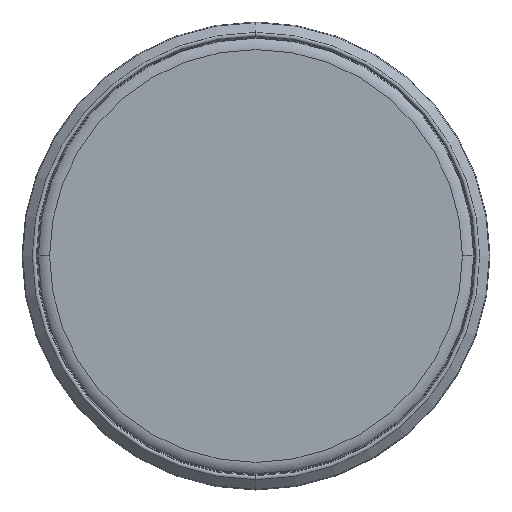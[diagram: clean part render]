
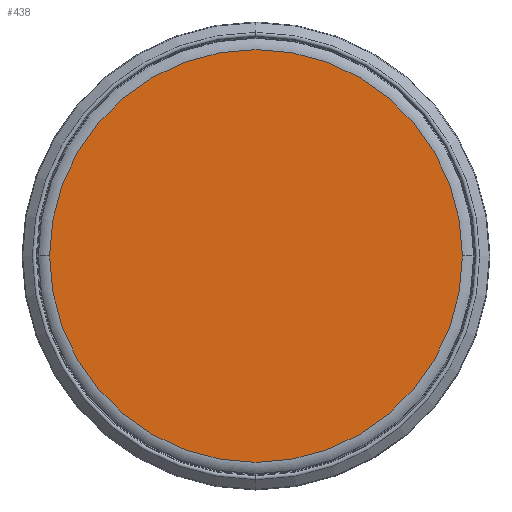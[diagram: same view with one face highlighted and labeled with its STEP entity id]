
A CAD part, top view. The second image highlights one B-rep face of the part: STEP entity #438.
In plain terms, the highlighted planar face has unit normal (0, 0, 1) as drawn and (0, 0, -1) by its records, which use the part's own axes.
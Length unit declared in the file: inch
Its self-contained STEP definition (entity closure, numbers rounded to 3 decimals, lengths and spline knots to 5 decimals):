
#169 = AXIS2_PLACEMENT_3D ( 'NONE', #539, #531, #530 ) ;
#201 = AXIS2_PLACEMENT_3D ( 'NONE', #1188, #1187, #1186 ) ;
#206 = AXIS2_PLACEMENT_3D ( 'NONE', #1357, #1348, #1347 ) ;
#438 = ADVANCED_FACE ( 'NONE', ( #1598 ), #534, .F. ) ;
#466 = CARTESIAN_POINT ( 'NONE',  ( 1.60721, 0., 0. ) ) ;
#530 = DIRECTION ( 'NONE',  ( 1., 0., 0. ) ) ;
#531 = DIRECTION ( 'NONE',  ( 0., 0., 1. ) ) ;
#534 = PLANE ( 'NONE',  #169 ) ;
#539 = CARTESIAN_POINT ( 'NONE',  ( 0., 0., 0. ) ) ;
#876 = VERTEX_POINT ( 'NONE', #466 ) ;
#881 = VERTEX_POINT ( 'NONE', #950 ) ;
#950 = CARTESIAN_POINT ( 'NONE',  ( -1.60721, 0., 0. ) ) ;
#1186 = DIRECTION ( 'NONE',  ( 1., 0., 0. ) ) ;
#1187 = DIRECTION ( 'NONE',  ( 0., 0., 1. ) ) ;
#1188 = CARTESIAN_POINT ( 'NONE',  ( 0., 0., 0. ) ) ;
#1347 = DIRECTION ( 'NONE',  ( 1., 0., 0. ) ) ;
#1348 = DIRECTION ( 'NONE',  ( 0., 0., 1. ) ) ;
#1357 = CARTESIAN_POINT ( 'NONE',  ( 0., 0., 0. ) ) ;
#1375 = ORIENTED_EDGE ( 'NONE', *, *, #2257, .F. ) ;
#1390 = ORIENTED_EDGE ( 'NONE', *, *, #2264, .F. ) ;
#1598 = FACE_OUTER_BOUND ( 'NONE', #2238, .T. ) ;
#1657 = CIRCLE ( 'NONE', #201, 1.60721 ) ;
#1666 = CIRCLE ( 'NONE', #206, 1.60721 ) ;
#2238 = EDGE_LOOP ( 'NONE', ( #1390, #1375 ) ) ;
#2257 = EDGE_CURVE ( 'NONE', #881, #876, #1657, .T. ) ;
#2264 = EDGE_CURVE ( 'NONE', #876, #881, #1666, .T. ) ;
